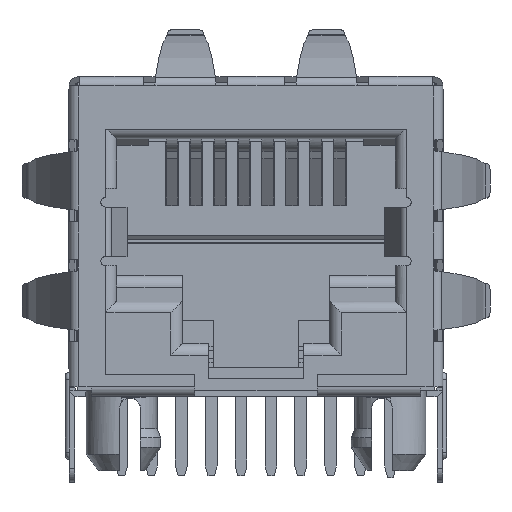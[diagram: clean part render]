
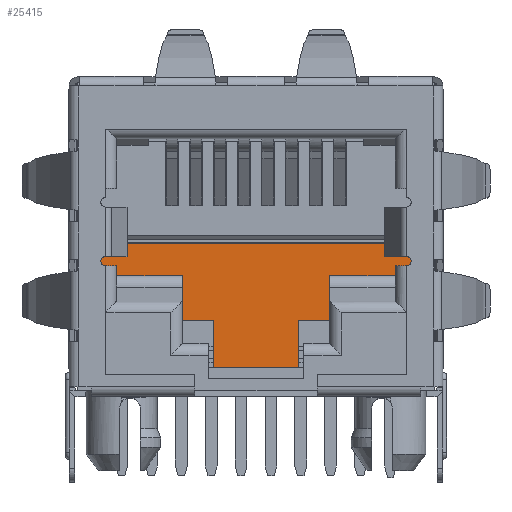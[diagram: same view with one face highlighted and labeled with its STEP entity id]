
A CAD part, top view. The second image highlights one B-rep face of the part: STEP entity #25415.
In plain terms, the highlighted planar face has unit normal (0, 0, 1).
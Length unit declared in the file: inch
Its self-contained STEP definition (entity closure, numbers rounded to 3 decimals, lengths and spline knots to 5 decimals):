
#197 = CARTESIAN_POINT ( 'NONE',  ( -0.11317, 0.06673, -0.42913 ) ) ;
#198 = DIRECTION ( 'NONE',  ( 1., 0., 0. ) ) ;
#943 = DIRECTION ( 'NONE',  ( 1., 0., 0. ) ) ;
#1392 = CARTESIAN_POINT ( 'NONE',  ( -0.18404, -0.08681, -0.42913 ) ) ;
#1909 = VECTOR ( 'NONE', #51487, 39.37008 ) ;
#2111 = VERTEX_POINT ( 'NONE', #26975 ) ;
#2180 = CARTESIAN_POINT ( 'NONE',  ( 0.15257, -0.00871, -0.42913 ) ) ;
#2366 = VECTOR ( 'NONE', #20179, 39.37008 ) ;
#2395 = VECTOR ( 'NONE', #20929, 39.37008 ) ;
#2735 = ORIENTED_EDGE ( 'NONE', *, *, #57921, .T. ) ;
#3288 = LINE ( 'NONE', #60633, #61272 ) ;
#3896 = VECTOR ( 'NONE', #23408, 39.37008 ) ;
#4449 = EDGE_LOOP ( 'NONE', ( #33624, #64662, #61696, #67057, #2735, #11053, #69967, #25567, #28356, #41421, #48987, #69457, #4710, #28215, #18717, #52655 ) ) ;
#4710 = ORIENTED_EDGE ( 'NONE', *, *, #58402, .T. ) ;
#5182 = VERTEX_POINT ( 'NONE', #10059 ) ;
#6468 = CARTESIAN_POINT ( 'NONE',  ( -0.11317, 0.38563, -0.42913 ) ) ;
#6740 = LINE ( 'NONE', #45933, #64245 ) ;
#7972 = CARTESIAN_POINT ( 'NONE',  ( -0.37892, 0.38563, -0.42913 ) ) ;
#7975 = LINE ( 'NONE', #35060, #20478 ) ;
#8056 = DIRECTION ( 'NONE',  ( 0., 1., 0. ) ) ;
#8223 = DIRECTION ( 'NONE',  ( 1., 0., 0. ) ) ;
#9005 = EDGE_CURVE ( 'NONE', #50467, #53901, #63119, .T. ) ;
#9074 = FACE_OUTER_BOUND ( 'NONE', #4449, .T. ) ;
#9524 = VERTEX_POINT ( 'NONE', #1392 ) ;
#9827 = VECTOR ( 'NONE', #40152, 39.37008 ) ;
#10059 = CARTESIAN_POINT ( 'NONE',  ( -0.04231, -0.08681, -0.42913 ) ) ;
#10177 = CARTESIAN_POINT ( 'NONE',  ( -0.37892, 0.08248, -0.42913 ) ) ;
#10205 = CARTESIAN_POINT ( 'NONE',  ( 0.15257, 0.38563, -0.42913 ) ) ;
#10868 = VERTEX_POINT ( 'NONE', #13026 ) ;
#11053 = ORIENTED_EDGE ( 'NONE', *, *, #37941, .T. ) ;
#13026 = CARTESIAN_POINT ( 'NONE',  ( 0.00986, 0.06673, -0.42913 ) ) ;
#13065 = VECTOR ( 'NONE', #19810, 39.37008 ) ;
#13075 = EDGE_CURVE ( 'NONE', #31544, #9524, #41675, .T. ) ;
#13459 = VECTOR ( 'NONE', #15320, 39.37008 ) ;
#13554 = VECTOR ( 'NONE', #13581, 39.37008 ) ;
#13581 = DIRECTION ( 'NONE',  ( 0., -1., 0. ) ) ;
#14239 = CARTESIAN_POINT ( 'NONE',  ( 0.15257, 0.08248, -0.42913 ) ) ;
#15320 = DIRECTION ( 'NONE',  ( 0., -1., 0. ) ) ;
#15475 = DIRECTION ( 'NONE',  ( 0., 1., 0. ) ) ;
#16838 = CARTESIAN_POINT ( 'NONE',  ( -0.23621, 0.02343, -0.42913 ) ) ;
#16970 = EDGE_CURVE ( 'NONE', #9524, #5182, #7975, .T. ) ;
#18225 = CARTESIAN_POINT ( 'NONE',  ( 0.12009, 0.38563, -0.42913 ) ) ;
#18717 = ORIENTED_EDGE ( 'NONE', *, *, #20200, .T. ) ;
#19121 = CARTESIAN_POINT ( 'NONE',  ( -0.23621, 0.06673, -0.42913 ) ) ;
#19810 = DIRECTION ( 'NONE',  ( 1., 0., 0. ) ) ;
#20179 = DIRECTION ( 'NONE',  ( 0., -1., 0. ) ) ;
#20200 = EDGE_CURVE ( 'NONE', #10868, #62616, #46021, .T. ) ;
#20478 = VECTOR ( 'NONE', #24718, 39.37008 ) ;
#20616 = EDGE_CURVE ( 'NONE', #5182, #56528, #3288, .T. ) ;
#20929 = DIRECTION ( 'NONE',  ( -1., 0., 0. ) ) ;
#22269 = EDGE_CURVE ( 'NONE', #40432, #60281, #52762, .T. ) ;
#22677 = CARTESIAN_POINT ( 'NONE',  ( -0.37892, 0.12035, -0.42913 ) ) ;
#23001 = EDGE_CURVE ( 'NONE', #65423, #66226, #69921, .T. ) ;
#23408 = DIRECTION ( 'NONE',  ( 1., 0., 0. ) ) ;
#24718 = DIRECTION ( 'NONE',  ( 1., 0., 0. ) ) ;
#25415 = ADVANCED_FACE ( 'NONE', ( #9074 ), #59424, .T. ) ;
#25567 = ORIENTED_EDGE ( 'NONE', *, *, #9005, .T. ) ;
#25750 = VECTOR ( 'NONE', #943, 39.37008 ) ;
#25820 = EDGE_CURVE ( 'NONE', #53901, #31544, #6740, .T. ) ;
#26975 = CARTESIAN_POINT ( 'NONE',  ( 0.00986, -0.00871, -0.42913 ) ) ;
#28215 = ORIENTED_EDGE ( 'NONE', *, *, #52816, .T. ) ;
#28356 = ORIENTED_EDGE ( 'NONE', *, *, #25820, .T. ) ;
#28944 = CARTESIAN_POINT ( 'NONE',  ( 0.15257, 0.12035, -0.42913 ) ) ;
#29082 = DIRECTION ( 'NONE',  ( 0., -1., 0. ) ) ;
#29419 = VECTOR ( 'NONE', #8056, 39.37008 ) ;
#31544 = VERTEX_POINT ( 'NONE', #37449 ) ;
#33624 = ORIENTED_EDGE ( 'NONE', *, *, #22269, .T. ) ;
#34003 = CARTESIAN_POINT ( 'NONE',  ( 0.12009, 0.08248, -0.42913 ) ) ;
#34119 = LINE ( 'NONE', #34857, #3896 ) ;
#34377 = VERTEX_POINT ( 'NONE', #58280 ) ;
#34857 = CARTESIAN_POINT ( 'NONE',  ( -0.11317, 0.06673, -0.42913 ) ) ;
#34898 = DIRECTION ( 'NONE',  ( 1., 0., 0. ) ) ;
#35060 = CARTESIAN_POINT ( 'NONE',  ( 0.15257, -0.08681, -0.42913 ) ) ;
#37449 = CARTESIAN_POINT ( 'NONE',  ( -0.18404, -0.00871, -0.42913 ) ) ;
#37941 = EDGE_CURVE ( 'NONE', #34377, #53564, #44872, .T. ) ;
#38893 = EDGE_CURVE ( 'NONE', #62616, #40432, #39637, .T. ) ;
#39637 = LINE ( 'NONE', #18225, #1909 ) ;
#39740 = CARTESIAN_POINT ( 'NONE',  ( 0.12009, 0.06673, -0.42913 ) ) ;
#40152 = DIRECTION ( 'NONE',  ( 0., 1., 0. ) ) ;
#40239 = CARTESIAN_POINT ( 'NONE',  ( -0.18404, 0.38563, -0.42913 ) ) ;
#40432 = VERTEX_POINT ( 'NONE', #34003 ) ;
#41421 = ORIENTED_EDGE ( 'NONE', *, *, #13075, .T. ) ;
#41675 = LINE ( 'NONE', #40239, #13554 ) ;
#44740 = EDGE_CURVE ( 'NONE', #60281, #48366, #66923, .T. ) ;
#44872 = LINE ( 'NONE', #67595, #13459 ) ;
#45933 = CARTESIAN_POINT ( 'NONE',  ( -0.11317, -0.00871, -0.42913 ) ) ;
#46021 = LINE ( 'NONE', #197, #25750 ) ;
#46727 = LINE ( 'NONE', #58904, #57003 ) ;
#47274 = DIRECTION ( 'NONE',  ( 1., 0., 0. ) ) ;
#48366 = VERTEX_POINT ( 'NONE', #28944 ) ;
#48987 = ORIENTED_EDGE ( 'NONE', *, *, #16970, .T. ) ;
#49014 = LINE ( 'NONE', #71745, #2395 ) ;
#50467 = VERTEX_POINT ( 'NONE', #19121 ) ;
#51487 = DIRECTION ( 'NONE',  ( 0., 1., 0. ) ) ;
#52191 = CARTESIAN_POINT ( 'NONE',  ( -0.34644, 0.06673, -0.42913 ) ) ;
#52655 = ORIENTED_EDGE ( 'NONE', *, *, #38893, .T. ) ;
#52762 = LINE ( 'NONE', #14239, #13065 ) ;
#52816 = EDGE_CURVE ( 'NONE', #2111, #10868, #58755, .T. ) ;
#53444 = CARTESIAN_POINT ( 'NONE',  ( 0.15257, 0.08248, -0.42913 ) ) ;
#53564 = VERTEX_POINT ( 'NONE', #52191 ) ;
#53901 = VERTEX_POINT ( 'NONE', #66081 ) ;
#54816 = VECTOR ( 'NONE', #47274, 39.37008 ) ;
#56528 = VERTEX_POINT ( 'NONE', #59403 ) ;
#57003 = VECTOR ( 'NONE', #8223, 39.37008 ) ;
#57921 = EDGE_CURVE ( 'NONE', #66226, #34377, #46727, .T. ) ;
#58107 = EDGE_CURVE ( 'NONE', #53564, #50467, #34119, .T. ) ;
#58280 = CARTESIAN_POINT ( 'NONE',  ( -0.34644, 0.08248, -0.42913 ) ) ;
#58399 = LINE ( 'NONE', #2180, #54816 ) ;
#58402 = EDGE_CURVE ( 'NONE', #56528, #2111, #58399, .T. ) ;
#58755 = LINE ( 'NONE', #64396, #29419 ) ;
#58904 = CARTESIAN_POINT ( 'NONE',  ( 0.15257, 0.08248, -0.42913 ) ) ;
#59403 = CARTESIAN_POINT ( 'NONE',  ( -0.04231, -0.00871, -0.42913 ) ) ;
#59424 = PLANE ( 'NONE',  #72530 ) ;
#60281 = VERTEX_POINT ( 'NONE', #53444 ) ;
#60633 = CARTESIAN_POINT ( 'NONE',  ( -0.04231, 0.38563, -0.42913 ) ) ;
#61272 = VECTOR ( 'NONE', #15475, 39.37008 ) ;
#61280 = DIRECTION ( 'NONE',  ( 0., 0., 1. ) ) ;
#61696 = ORIENTED_EDGE ( 'NONE', *, *, #62550, .T. ) ;
#62550 = EDGE_CURVE ( 'NONE', #48366, #65423, #49014, .T. ) ;
#62616 = VERTEX_POINT ( 'NONE', #39740 ) ;
#63119 = LINE ( 'NONE', #16838, #68770 ) ;
#64245 = VECTOR ( 'NONE', #34898, 39.37008 ) ;
#64396 = CARTESIAN_POINT ( 'NONE',  ( 0.00986, 0.02343, -0.42913 ) ) ;
#64662 = ORIENTED_EDGE ( 'NONE', *, *, #44740, .T. ) ;
#65423 = VERTEX_POINT ( 'NONE', #22677 ) ;
#66081 = CARTESIAN_POINT ( 'NONE',  ( -0.23621, -0.00871, -0.42913 ) ) ;
#66226 = VERTEX_POINT ( 'NONE', #10177 ) ;
#66923 = LINE ( 'NONE', #10205, #9827 ) ;
#67057 = ORIENTED_EDGE ( 'NONE', *, *, #23001, .T. ) ;
#67595 = CARTESIAN_POINT ( 'NONE',  ( -0.34644, 0.38563, -0.42913 ) ) ;
#68770 = VECTOR ( 'NONE', #29082, 39.37008 ) ;
#69457 = ORIENTED_EDGE ( 'NONE', *, *, #20616, .T. ) ;
#69921 = LINE ( 'NONE', #7972, #2366 ) ;
#69967 = ORIENTED_EDGE ( 'NONE', *, *, #58107, .T. ) ;
#71745 = CARTESIAN_POINT ( 'NONE',  ( -0.11317, 0.12035, -0.42913 ) ) ;
#72530 = AXIS2_PLACEMENT_3D ( 'NONE', #6468, #61280, #198 ) ;
